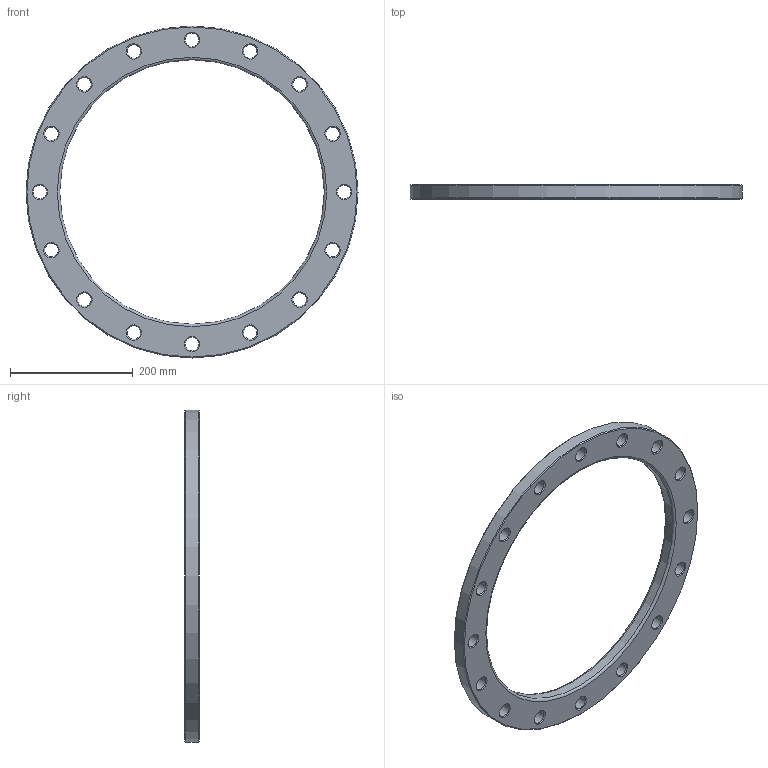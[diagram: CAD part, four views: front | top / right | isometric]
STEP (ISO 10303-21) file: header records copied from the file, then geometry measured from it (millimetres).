
FILE_DESCRIPTION(/* description */ ('Unknown'),/* implementation_level */ '2;1');
FILE_NAME(/* name */ 'FZ400A',/* time_stamp */ '2021-03-13T11:54:27+01:00',/* author */ ('Unknown'),/* organization */ ('Unknown'),/* preprocessor_version */ 'ST-DEVELOPER v16.7',/* originating_system */ 'Solid Edge',/* authorisation */ 'Unknown');
FILE_SCHEMA (('AUTOMOTIVE_DESIGN {1 0 10303 214 3 1 1}'));
Length unit declared in the file: millimetre
Products named in the file (1): FZ400A
Bounding box: 540 x 23 x 540 mm (x, y, z)
Volume: 1771830.2 mm3; surface area: 241502 mm2
Topology: 1 solids, 1 shells, 56 faces, 174 edges, 120 vertices
Faces by surface type: cone 34, cylinder 18, plane 2, torus 2
Full cylindrical faces by diameter (mm): 22 x16, 430 x1, 540 x1
Entity records: 1382 total; most frequent: DIRECTION 258, CARTESIAN_POINT 201, ORIENTED_EDGE 144, EDGE_LOOP 144, FACE_BOUND 144, AXIS2_PLACEMENT_3D 129, EDGE_CURVE 72, VERTEX_POINT 72
